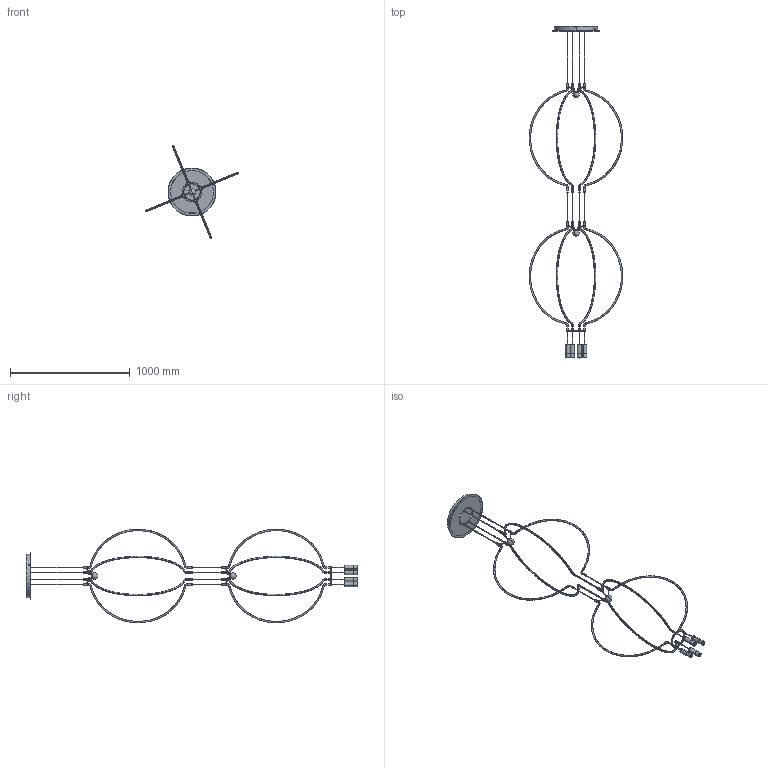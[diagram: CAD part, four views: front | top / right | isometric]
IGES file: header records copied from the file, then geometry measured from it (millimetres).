
Start section: SolidWorks IGES file using analytic representation for surfaces
Global section: file name: \\STORAGE\Tecnico Condiviso\1 FASCICOLI TECNICI\AXO DESIGN\AXO058-LIAISON\AXO01 Liaison - Fascicolo Tecnico 2018-11-20\AXO01.LS05 SO80 4 Luci D\SPLIADM4XXXXLED.IGS; native system: SolidWorks 2019; preprocessor: SolidWorks 2019; author: tecnico3; date: 201013.091010; units: millimetre
Bounding box: 781.49 x 2774.23 x 781.49 mm (x, y, z)
Surface area: 901172.8 mm2 (no closed solid volume)
Topology: 0 solids, 0 shells, 285 faces, 6966 edges, 6966 vertices
Faces by surface type: revolution 164, bspline 121
